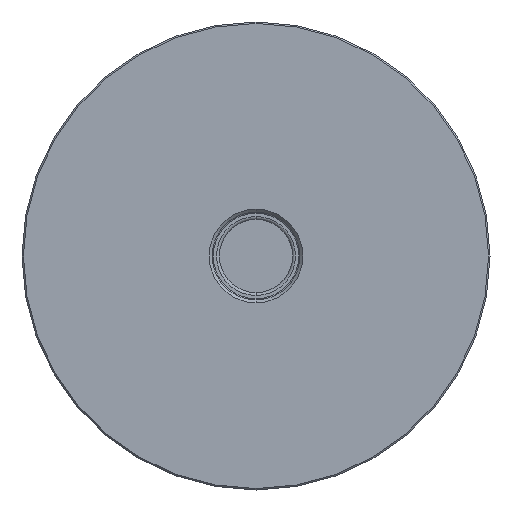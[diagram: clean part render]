
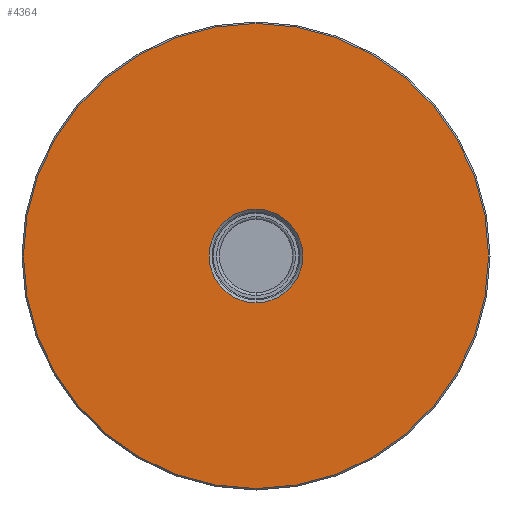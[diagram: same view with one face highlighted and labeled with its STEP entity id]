
A CAD part, front view. The second image highlights one B-rep face of the part: STEP entity #4364.
In plain terms, the highlighted planar face has unit normal (0, -1, 0).
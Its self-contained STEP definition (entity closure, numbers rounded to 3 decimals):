
#207 = AXIS2_PLACEMENT_3D ( 'NONE', #1491, #1525, #6940 ) ;
#276 = CARTESIAN_POINT ( 'NONE',  ( 0., 0., 0. ) ) ;
#367 = ORIENTED_EDGE ( 'NONE', *, *, #4639, .T. ) ;
#502 = AXIS2_PLACEMENT_3D ( 'NONE', #6870, #1951, #1425 ) ;
#521 = DIRECTION ( 'NONE',  ( 0., 1., 0. ) ) ;
#587 = VERTEX_POINT ( 'NONE', #2894 ) ;
#770 = CARTESIAN_POINT ( 'NONE',  ( 0., 0., 16. ) ) ;
#889 = CARTESIAN_POINT ( 'NONE',  ( 0., 0., 0. ) ) ;
#988 = PLANE ( 'NONE',  #1747 ) ;
#1349 = DIRECTION ( 'NONE',  ( 0., -1., 0. ) ) ;
#1425 = DIRECTION ( 'NONE',  ( 0., 0., 1. ) ) ;
#1491 = CARTESIAN_POINT ( 'NONE',  ( 0., 0., 0. ) ) ;
#1525 = DIRECTION ( 'NONE',  ( 0., -1., 0. ) ) ;
#1722 = CARTESIAN_POINT ( 'NONE',  ( 0., 0., -16. ) ) ;
#1747 = AXIS2_PLACEMENT_3D ( 'NONE', #4859, #521, #7075 ) ;
#1951 = DIRECTION ( 'NONE',  ( 0., 1., 0. ) ) ;
#1975 = DIRECTION ( 'NONE',  ( 0., 1., 0. ) ) ;
#2167 = EDGE_CURVE ( 'NONE', #587, #3198, #6717, .T. ) ;
#2523 = VERTEX_POINT ( 'NONE', #1722 ) ;
#2647 = CIRCLE ( 'NONE', #6667, 79.5 ) ;
#2725 = EDGE_LOOP ( 'NONE', ( #3566, #367 ) ) ;
#2850 = FACE_OUTER_BOUND ( 'NONE', #4941, .T. ) ;
#2894 = CARTESIAN_POINT ( 'NONE',  ( 0., 0., -79.5 ) ) ;
#2947 = ORIENTED_EDGE ( 'NONE', *, *, #4504, .T. ) ;
#2993 = AXIS2_PLACEMENT_3D ( 'NONE', #276, #1975, #5762 ) ;
#3198 = VERTEX_POINT ( 'NONE', #6377 ) ;
#3244 = CIRCLE ( 'NONE', #502, 16. ) ;
#3566 = ORIENTED_EDGE ( 'NONE', *, *, #5673, .T. ) ;
#4354 = FACE_BOUND ( 'NONE', #2725, .T. ) ;
#4364 = ADVANCED_FACE ( 'NONE', ( #4354, #2850 ), #988, .F. ) ;
#4504 = EDGE_CURVE ( 'NONE', #3198, #587, #2647, .T. ) ;
#4639 = EDGE_CURVE ( 'NONE', #4684, #2523, #3244, .T. ) ;
#4684 = VERTEX_POINT ( 'NONE', #770 ) ;
#4859 = CARTESIAN_POINT ( 'NONE',  ( -15., 0., 0. ) ) ;
#4941 = EDGE_LOOP ( 'NONE', ( #2947, #6620 ) ) ;
#5409 = CIRCLE ( 'NONE', #2993, 16. ) ;
#5673 = EDGE_CURVE ( 'NONE', #2523, #4684, #5409, .T. ) ;
#5762 = DIRECTION ( 'NONE',  ( 0., 0., 1. ) ) ;
#6377 = CARTESIAN_POINT ( 'NONE',  ( 0., 0., 79.5 ) ) ;
#6620 = ORIENTED_EDGE ( 'NONE', *, *, #2167, .T. ) ;
#6667 = AXIS2_PLACEMENT_3D ( 'NONE', #889, #1349, #6756 ) ;
#6717 = CIRCLE ( 'NONE', #207, 79.5 ) ;
#6756 = DIRECTION ( 'NONE',  ( 0., 0., -1. ) ) ;
#6870 = CARTESIAN_POINT ( 'NONE',  ( 0., 0., 0. ) ) ;
#6940 = DIRECTION ( 'NONE',  ( 0., 0., -1. ) ) ;
#7075 = DIRECTION ( 'NONE',  ( 1., 0., 0. ) ) ;
